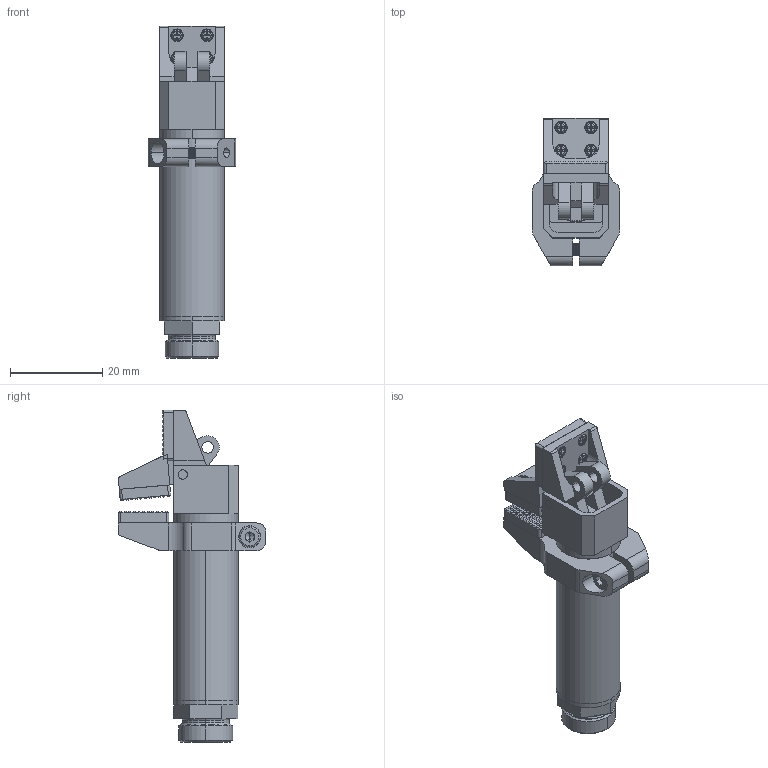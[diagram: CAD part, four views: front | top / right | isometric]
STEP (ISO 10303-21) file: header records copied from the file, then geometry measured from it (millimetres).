
FILE_DESCRIPTION (( 'STEP AP214' ), '1' );
FILE_NAME ('GFR14-95G-C.STEP', '2019-11-13T01:53:31', ( '微软用户' ), ( '微软中国' ), 'SwSTEP 2.0', 'SolidWorks 2016', '' );
FILE_SCHEMA (( 'AUTOMOTIVE_DESIGN' ));
Length unit declared in the file: millimetre
Products named in the file (1): GFR14-95G-C
Bounding box: 19 x 32 x 72.02 mm (x, y, z)
Volume: 11307.6 mm3; surface area: 13048.8 mm2
Topology: 13 solids, 13 shells, 3263 faces, 7102 edges, 3909 vertices
Faces by surface type: plane 2672, cylinder 310, cone 196, torus 81, bspline 4
Entity records: 121504 total; most frequent: CARTESIAN_POINT 15308, DIRECTION 14421, ORIENTED_EDGE 14200, EDGE_CURVE 7100, LINE 5909, VECTOR 5909, AXIS2_PLACEMENT_3D 4256, VERTEX_POINT 3909
